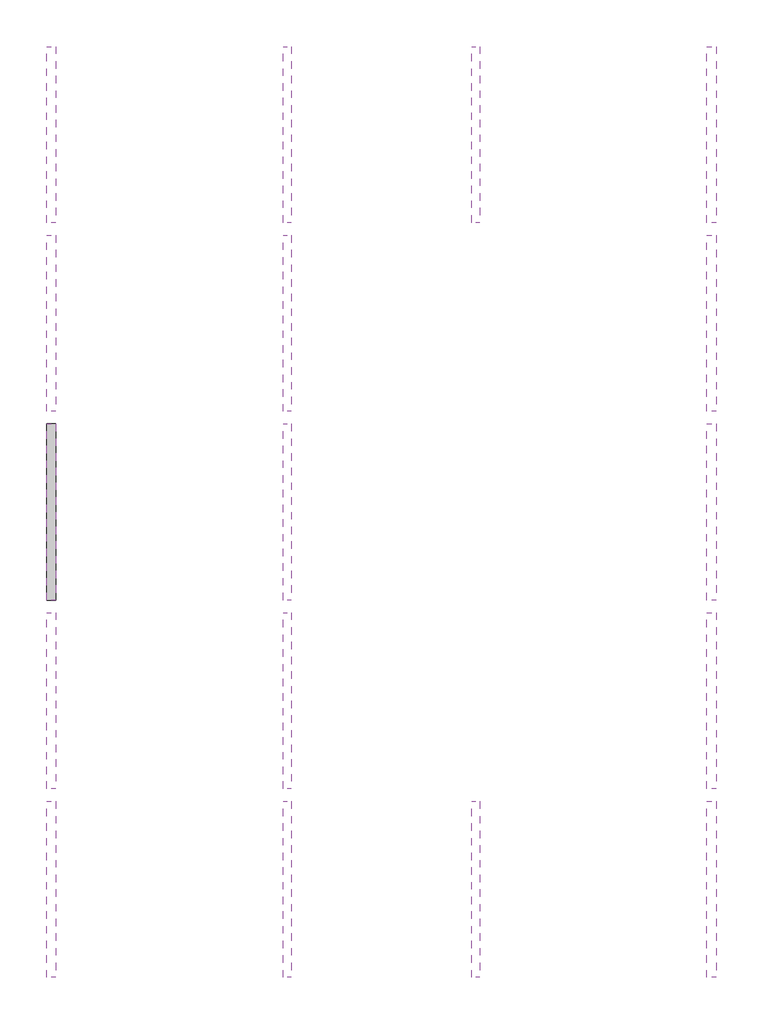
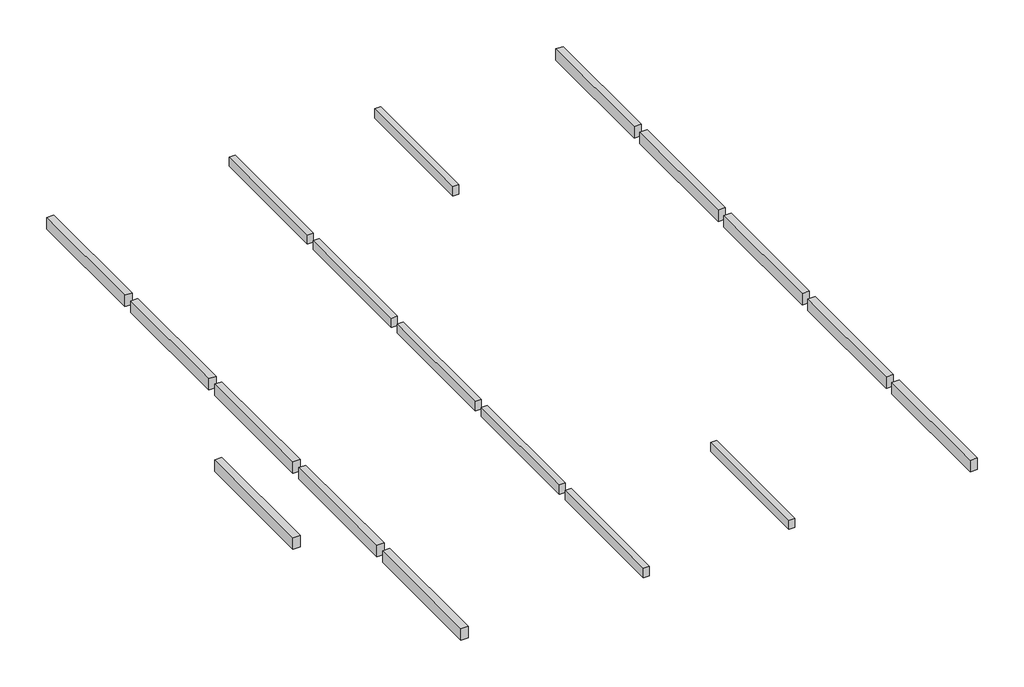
# One storey: 18 beams.
"""IFC4 building model written with IfcOpenShell, lengths in millimetres."""

from ifc_helpers import new_model, si_unit, frame, origin, place, context, project, spatial, polyline, outline, extrude, element, save

model = new_model("IFC4")

# Units and contexts
model_context = context("Model", 3, world=origin())
ifc_project = project(units=[si_unit("LENGTHUNIT", "METRE", prefix="MILLI")], contexts=[model_context])

# Site, building, storey
site = spatial("IfcSite", under=ifc_project)
building = spatial("IfcBuilding", under=site)
storey = spatial("IfcBuildingStorey", under=building, Name="Sàn lửng +4.200", Elevation=4200.0)

# Beams
placement = place(None, origin())
element("IfcBeam", 1, ObjectType="@BS-Concrete Beam : D250x400", at=placement, inside=storey, context=model_context, shape_type="SweptSolid", body=[
    extrude(outline(polyline([(7625.0, 200.0), (7375.0, 200.0), (7375.0, 5800.0), (7625.0, 5800.0), (7625.0, 200.0)])), frame((0.0, 0.0, 6800.0), z_axis=(0.0, 0.0, 1.0), x_axis=(1.0, 0.0, 0.0)), (0.0, 0.0, 1.0), 400.0),
])
element("IfcBeam", 2, ObjectType="@BS-Concrete Beam : D250x400", at=placement, inside=storey, context=model_context, shape_type="SweptSolid", body=[
    extrude(outline(polyline([(13625.0, 200.0), (13375.0, 200.0), (13375.0, 5800.0), (13625.0, 5800.0), (13625.0, 200.0)])), frame((0.0, 0.0, 6800.0), z_axis=(0.0, 0.0, 1.0), x_axis=(1.0, 0.0, 0.0)), (0.0, 0.0, 1.0), 400.0),
])
element("IfcBeam", 3, ObjectType="@BS-Concrete Beam : D250x400", at=placement, inside=storey, context=model_context, shape_type="SweptSolid", body=[
    extrude(outline(polyline([(7625.0, 6200.0), (7375.0, 6200.0), (7375.0, 11800.0), (7625.0, 11800.0), (7625.0, 6200.0)])), frame((0.0, 0.0, 6800.0), z_axis=(0.0, 0.0, 1.0), x_axis=(1.0, 0.0, 0.0)), (0.0, 0.0, 1.0), 400.0),
])
element("IfcBeam", 4, ObjectType="@BS-Concrete Beam : D250x400", at=placement, inside=storey, context=model_context, shape_type="SweptSolid", body=[
    extrude(outline(polyline([(7625.0, 12200.0), (7375.0, 12200.0), (7375.0, 17800.0), (7625.0, 17800.0), (7625.0, 12200.0)])), frame((0.0, 0.0, 6800.0), z_axis=(0.0, 0.0, 1.0), x_axis=(1.0, 0.0, 0.0)), (0.0, 0.0, 1.0), 400.0),
])
element("IfcBeam", 5, ObjectType="@BS-Concrete Beam : D250x400", at=placement, inside=storey, context=model_context, shape_type="SweptSolid", body=[
    extrude(outline(polyline([(7625.0, 18200.0), (7375.0, 18200.0), (7375.0, 23800.0), (7625.0, 23800.0), (7625.0, 18200.0)])), frame((0.0, 0.0, 6800.0), z_axis=(0.0, 0.0, 1.0), x_axis=(1.0, 0.0, 0.0)), (0.0, 0.0, 1.0), 400.0),
])
element("IfcBeam", 6, ObjectType="@BS-Concrete Beam : D250x400", at=placement, inside=storey, context=model_context, shape_type="SweptSolid", body=[
    extrude(outline(polyline([(7625.0, 24200.0), (7375.0, 24200.0), (7375.0, 29800.0), (7625.0, 29800.0), (7625.0, 24200.0)])), frame((0.0, 0.0, 6800.0), z_axis=(0.0, 0.0, 1.0), x_axis=(1.0, 0.0, 0.0)), (0.0, 0.0, 1.0), 400.0),
])
element("IfcBeam", 7, ObjectType="@BS-Concrete Beam : D250x400", at=placement, inside=storey, context=model_context, shape_type="SweptSolid", body=[
    extrude(outline(polyline([(13625.0, 24200.0), (13375.0, 24200.0), (13375.0, 29800.0), (13625.0, 29800.0), (13625.0, 24200.0)])), frame((0.0, 0.0, 6800.0), z_axis=(0.0, 0.0, 1.0), x_axis=(1.0, 0.0, 0.0)), (0.0, 0.0, 1.0), 400.0),
])
element("IfcBeam", 8, ObjectType="@BS-Concrete Beam : D300x500", at=placement, inside=storey, context=model_context, shape_type="SweptSolid", body=[
    extrude(outline(polyline([(150.0, 200.0), (-150.0, 200.0), (-150.0, 5800.0), (150.0, 5800.0), (150.0, 200.0)])), frame((0.0, 0.0, 6700.0), z_axis=(0.0, 0.0, 1.0), x_axis=(1.0, 0.0, 0.0)), (0.0, 0.0, 1.0), 500.0),
])
element("IfcBeam", 9, ObjectType="@BS-Concrete Beam : D300x500", at=placement, inside=storey, context=model_context, shape_type="SweptSolid", body=[
    extrude(outline(polyline([(21150.0, 200.0), (20850.0, 200.0), (20850.0, 5800.0), (21150.0, 5800.0), (21150.0, 200.0)])), frame((0.0, 0.0, 6700.0), z_axis=(0.0, 0.0, 1.0), x_axis=(1.0, 0.0, 0.0)), (0.0, 0.0, 1.0), 500.0),
])
element("IfcBeam", 10, ObjectType="@BS-Concrete Beam : D300x500", at=placement, inside=storey, context=model_context, shape_type="SweptSolid", body=[
    extrude(outline(polyline([(150.0, 6200.0), (-150.0, 6200.0), (-150.0, 11800.0), (150.0, 11800.0), (150.0, 6200.0)])), frame((0.0, 0.0, 6700.0), z_axis=(0.0, 0.0, 1.0), x_axis=(1.0, 0.0, 0.0)), (0.0, 0.0, 1.0), 500.0),
])
element("IfcBeam", 11, ObjectType="@BS-Concrete Beam : D300x500", at=placement, inside=storey, context=model_context, shape_type="SweptSolid", body=[
    extrude(outline(polyline([(21150.0, 6200.0), (20850.0, 6200.0), (20850.0, 11800.0), (21150.0, 11800.0), (21150.0, 6200.0)])), frame((0.0, 0.0, 6700.0), z_axis=(0.0, 0.0, 1.0), x_axis=(1.0, 0.0, 0.0)), (0.0, 0.0, 1.0), 500.0),
])
element("IfcBeam", 12, ObjectType="@BS-Concrete Beam : D300x500", at=placement, inside=storey, context=model_context, shape_type="SweptSolid", body=[
    extrude(outline(polyline([(150.0, 12200.0), (-150.0, 12200.0), (-150.0, 17800.0), (150.0, 17800.0), (150.0, 12200.0)])), frame((0.0, 0.0, 6700.0), z_axis=(0.0, 0.0, 1.0), x_axis=(1.0, 0.0, 0.0)), (0.0, 0.0, 1.0), 500.0),
])
element("IfcBeam", 13, ObjectType="@BS-Concrete Beam : D300x500", at=placement, inside=storey, context=model_context, shape_type="SweptSolid", body=[
    extrude(outline(polyline([(21150.0, 12200.0), (20850.0, 12200.0), (20850.0, 17800.0), (21150.0, 17800.0), (21150.0, 12200.0)])), frame((0.0, 0.0, 6700.0), z_axis=(0.0, 0.0, 1.0), x_axis=(1.0, 0.0, 0.0)), (0.0, 0.0, 1.0), 500.0),
])
element("IfcBeam", 14, ObjectType="@BS-Concrete Beam : D300x500", at=placement, inside=storey, context=model_context, shape_type="SweptSolid", body=[
    extrude(outline(polyline([(150.0, 12200.0), (-150.0, 12200.0), (-150.0, 17800.0), (150.0, 17800.0), (150.0, 12200.0)])), frame((0.0, 0.0, 3400.0), z_axis=(0.0, 0.0, 1.0), x_axis=(1.0, 0.0, 0.0)), (0.0, 0.0, 1.0), 500.0),
])
element("IfcBeam", 15, ObjectType="@BS-Concrete Beam : D300x500", at=placement, inside=storey, context=model_context, shape_type="SweptSolid", body=[
    extrude(outline(polyline([(150.0, 18200.0), (-150.0, 18200.0), (-150.0, 23800.0), (150.0, 23800.0), (150.0, 18200.0)])), frame((0.0, 0.0, 6700.0), z_axis=(0.0, 0.0, 1.0), x_axis=(1.0, 0.0, 0.0)), (0.0, 0.0, 1.0), 500.0),
])
element("IfcBeam", 16, ObjectType="@BS-Concrete Beam : D300x500", at=placement, inside=storey, context=model_context, shape_type="SweptSolid", body=[
    extrude(outline(polyline([(21150.0, 18200.0), (20850.0, 18200.0), (20850.0, 23800.0), (21150.0, 23800.0), (21150.0, 18200.0)])), frame((0.0, 0.0, 6700.0), z_axis=(0.0, 0.0, 1.0), x_axis=(1.0, 0.0, 0.0)), (0.0, 0.0, 1.0), 500.0),
])
element("IfcBeam", 17, ObjectType="@BS-Concrete Beam : D300x500", at=placement, inside=storey, context=model_context, shape_type="SweptSolid", body=[
    extrude(outline(polyline([(150.0, 24200.0), (-150.0, 24200.0), (-150.0, 29800.0), (150.0, 29800.0), (150.0, 24200.0)])), frame((0.0, 0.0, 6700.0), z_axis=(0.0, 0.0, 1.0), x_axis=(1.0, 0.0, 0.0)), (0.0, 0.0, 1.0), 500.0),
])
element("IfcBeam", 18, ObjectType="@BS-Concrete Beam : D300x500", at=placement, inside=storey, context=model_context, shape_type="SweptSolid", body=[
    extrude(outline(polyline([(21150.0, 24200.0), (20850.0, 24200.0), (20850.0, 29800.0), (21150.0, 29800.0), (21150.0, 24200.0)])), frame((0.0, 0.0, 6700.0), z_axis=(0.0, 0.0, 1.0), x_axis=(1.0, 0.0, 0.0)), (0.0, 0.0, 1.0), 500.0),
])

save(model, "model.ifc")
